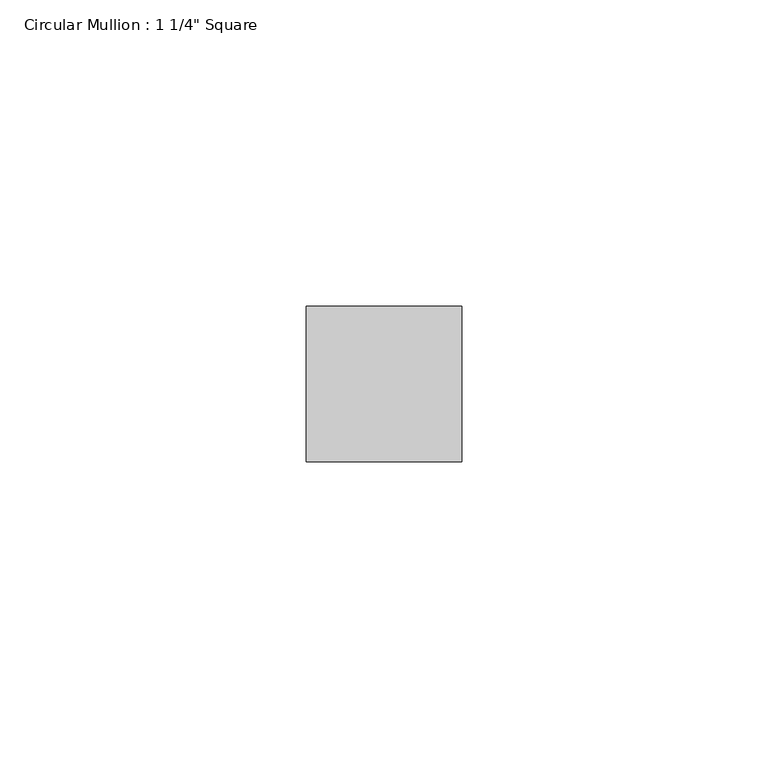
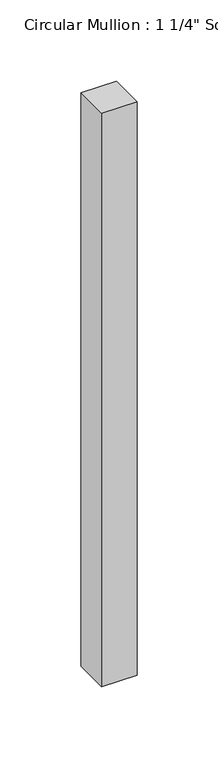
"""IFC4 building model written with IfcOpenShell, lengths in millimetres: member geometry."""

from ifc_helpers import new_model, si_unit, frame, origin, place, context, project, spatial, polyline, outline, extrude, source, transform, mapped, element, save


def member_d9fec558(model_context):
    return source(origin(), model_context, "Body", "SweptSolid", [
        extrude(outline(polyline([(12.7, 12.7), (12.7, -12.7), (-12.7, -12.7), (-12.7, 12.7), (12.7, 12.7)])), frame((0.0, 0.0, -431.8), z_axis=(0.0, 0.0, 1.0), x_axis=(1.0, 0.0, 0.0)), (0.0, 0.0, 1.0), 431.8),
    ])


if __name__ == "__main__":
    model = new_model("IFC4")
    model_context = context("Model", 3, world=origin())
    ifc_project = project(units=[si_unit("LENGTHUNIT", "METRE", prefix="MILLI")], contexts=[model_context])
    site = spatial("IfcSite", under=ifc_project)
    building = spatial("IfcBuilding", under=site)
    placement = place(None, origin())
    member_shape = member_d9fec558(model_context)
    element("IfcMember", 1, ObjectType="Circular Mullion : 1 1/4\" Square", at=placement, inside=building, context=model_context, shape_type="MappedRepresentation", body=[
        mapped(member_shape, transform((0.0, 0.0, 0.0), x_axis=(1.0, 0.0, 0.0), y_axis=(0.0, 1.0, 0.0), z_axis=(0.0, 0.0, 1.0))),
    ])
    save(model, "model.ifc")
